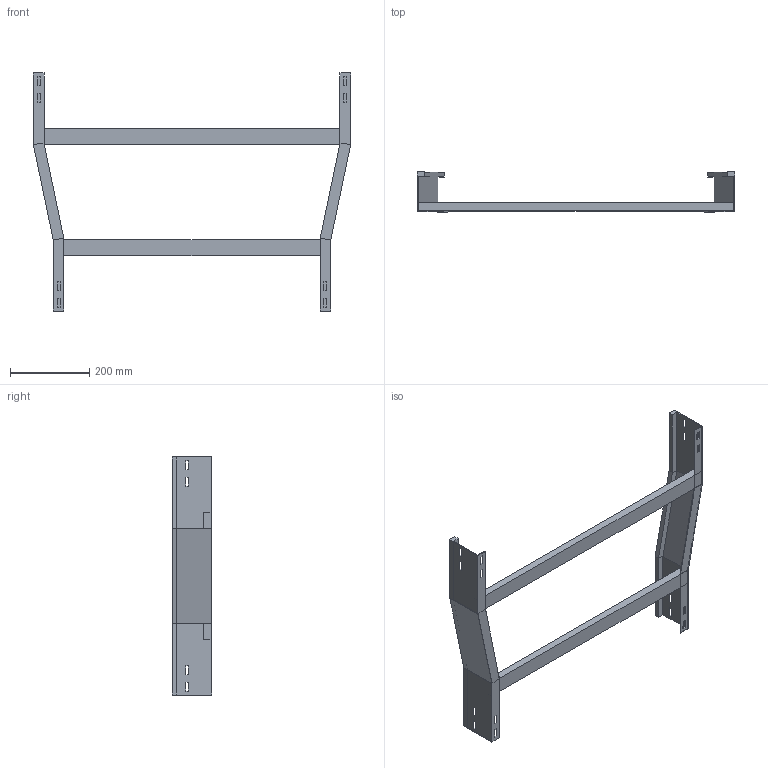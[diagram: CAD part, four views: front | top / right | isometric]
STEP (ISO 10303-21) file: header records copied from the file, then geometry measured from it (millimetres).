
FILE_DESCRIPTION (( 'STEP AP214' ), '1' );
FILE_NAME ('B2X20B7D800XX.step', '2025-09-02T17:15:25', ( '' ), ( '' ), 'SwSTEP 2.0', 'SolidWorks 2023', '' );
FILE_SCHEMA (( 'AUTOMOTIVE_DESIGN' ));
Length unit declared in the file: millimetre
Products named in the file (4): B2X20B7D800XX; TRAVERSINO_800; TRAVERSINO_700; SPONDA RID. CENTRALE 800-700_H100
Assembly tree (3 placements, depth 2):
  B2X20B7D800XX
    SPONDA RID. CENTRALE 800-700_H100
    TRAVERSINO_700
    TRAVERSINO_800
Bounding box: 800 x 100 x 600 mm (x, y, z)
Volume: 1738547.3 mm3; surface area: 528615.5 mm2
Topology: 4 solids, 4 shells, 128 faces, 328 edges, 208 vertices
Faces by surface type: plane 128
Entity records: 3950 total; most frequent: CARTESIAN_POINT 670, ORIENTED_EDGE 656, DIRECTION 596, EDGE_CURVE 328, VECTOR 328, LINE 328, VERTEX_POINT 208, EDGE_LOOP 160
